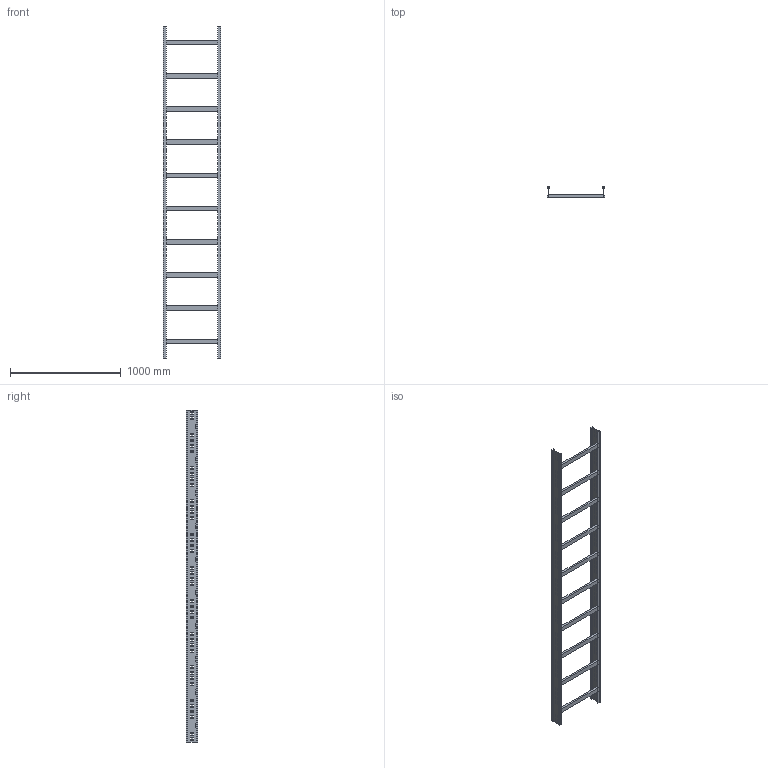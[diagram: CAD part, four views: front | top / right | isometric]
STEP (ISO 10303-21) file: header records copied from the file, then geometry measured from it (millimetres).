
FILE_DESCRIPTION (( 'STEP AP214' ), '1' );
FILE_NAME ('01S3D500.step', '2025-02-21T16:19:47', ( '' ), ( '' ), 'SwSTEP 2.0', 'SolidWorks 2023', '' );
FILE_SCHEMA (( 'AUTOMOTIVE_DESIGN' ));
Length unit declared in the file: millimetre
Products named in the file (3): LONGH.H100; 01S3D500; TRAVERSINO_500
Assembly tree (12 placements, depth 2):
  01S3D500
    LONGH.H100  x2
    TRAVERSINO_500  x10
Bounding box: 518 x 100 x 3000 mm (x, y, z)
Volume: 7153200 mm3; surface area: 2346011 mm2
Topology: 12 solids, 12 shells, 728 faces, 2112 edges, 1408 vertices
Faces by surface type: plane 728
Entity records: 11620 total; most frequent: CARTESIAN_POINT 2035, ORIENTED_EDGE 2016, DIRECTION 1718, LINE 1008, EDGE_CURVE 1008, VECTOR 1008, VERTEX_POINT 672, EDGE_LOOP 500
